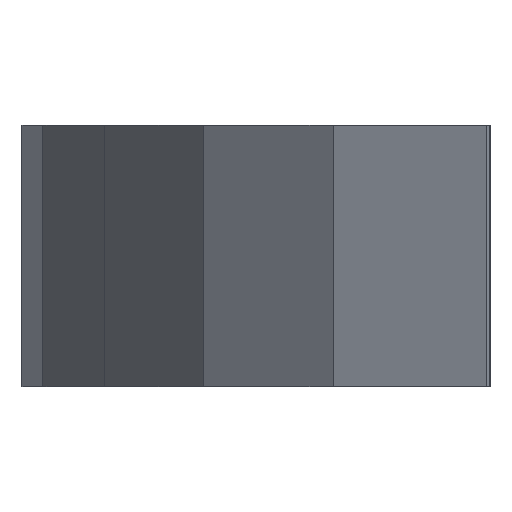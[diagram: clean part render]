
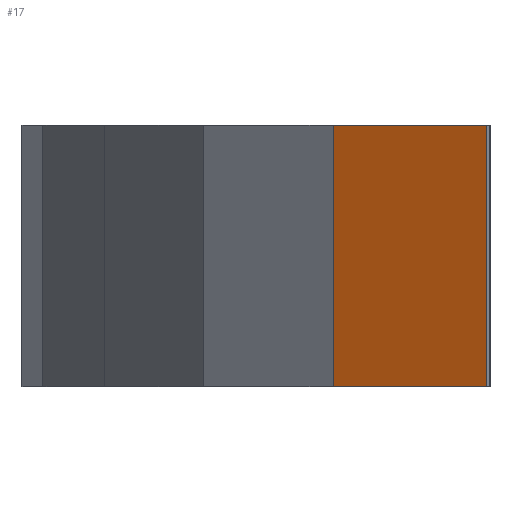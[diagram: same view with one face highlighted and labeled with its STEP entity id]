
A CAD part, left-side view. The second image highlights one B-rep face of the part: STEP entity #17.
In plain terms, the highlighted planar face has unit normal (-0.863, 0.505, 0).
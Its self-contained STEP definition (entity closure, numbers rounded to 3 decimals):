
#17 = ADVANCED_FACE('',(#18),#32,.F.);
#18 = FACE_BOUND('',#19,.F.);
#19 = EDGE_LOOP('',(#20,#55,#80,#108));
#20 = ORIENTED_EDGE('',*,*,#21,.T.);
#21 = EDGE_CURVE('',#22,#24,#26,.T.);
#22 = VERTEX_POINT('',#23);
#23 = CARTESIAN_POINT('',(-183.24,58.143,79.));
#24 = VERTEX_POINT('',#25);
#25 = CARTESIAN_POINT('',(-161.662,95.063,79.));
#26 = SURFACE_CURVE('',#27,(#31,#43),.PCURVE_S1.);
#27 = LINE('',#28,#29);
#28 = CARTESIAN_POINT('',(-183.24,58.143,79.));
#29 = VECTOR('',#30,1.);
#30 = DIRECTION('',(0.505,0.863,0.));
#31 = PCURVE('',#32,#37);
#32 = PLANE('',#33);
#33 = AXIS2_PLACEMENT_3D('',#34,#35,#36);
#34 = CARTESIAN_POINT('',(-183.24,58.143,142.));
#35 = DIRECTION('',(0.863,-0.505,0.));
#36 = DIRECTION('',(0.505,0.863,0.));
#37 = DEFINITIONAL_REPRESENTATION('',(#38),#42);
#38 = LINE('',#39,#40);
#39 = CARTESIAN_POINT('',(0.,-63.));
#40 = VECTOR('',#41,1.);
#41 = DIRECTION('',(1.,0.));
#42 = ( GEOMETRIC_REPRESENTATION_CONTEXT(2) 
PARAMETRIC_REPRESENTATION_CONTEXT() REPRESENTATION_CONTEXT('2D SPACE',''
  ) );
#43 = PCURVE('',#44,#49);
#44 = PLANE('',#45);
#45 = AXIS2_PLACEMENT_3D('',#46,#47,#48);
#46 = CARTESIAN_POINT('',(-183.24,58.143,79.));
#47 = DIRECTION('',(0.,0.,1.));
#48 = DIRECTION('',(1.,0.,-0.));
#49 = DEFINITIONAL_REPRESENTATION('',(#50),#54);
#50 = LINE('',#51,#52);
#51 = CARTESIAN_POINT('',(0.,0.));
#52 = VECTOR('',#53,1.);
#53 = DIRECTION('',(0.505,0.863));
#54 = ( GEOMETRIC_REPRESENTATION_CONTEXT(2) 
PARAMETRIC_REPRESENTATION_CONTEXT() REPRESENTATION_CONTEXT('2D SPACE',''
  ) );
#55 = ORIENTED_EDGE('',*,*,#56,.T.);
#56 = EDGE_CURVE('',#24,#57,#59,.T.);
#57 = VERTEX_POINT('',#58);
#58 = CARTESIAN_POINT('',(-161.662,95.063,142.));
#59 = SURFACE_CURVE('',#60,(#63,#69),.PCURVE_S1.);
#60 = B_SPLINE_CURVE_WITH_KNOTS('',1,(#61,#62),.UNSPECIFIED.,.F.,.F.,(2,
    2),(0.,1.),.PIECEWISE_BEZIER_KNOTS.);
#61 = CARTESIAN_POINT('',(-161.662,95.063,79.));
#62 = CARTESIAN_POINT('',(-161.662,95.063,142.));
#63 = PCURVE('',#32,#64);
#64 = DEFINITIONAL_REPRESENTATION('',(#65),#68);
#65 = B_SPLINE_CURVE_WITH_KNOTS('',1,(#66,#67),.UNSPECIFIED.,.F.,.F.,(2,
    2),(0.,1.),.PIECEWISE_BEZIER_KNOTS.);
#66 = CARTESIAN_POINT('',(42.763,-63.));
#67 = CARTESIAN_POINT('',(42.763,0.));
#68 = ( GEOMETRIC_REPRESENTATION_CONTEXT(2) 
PARAMETRIC_REPRESENTATION_CONTEXT() REPRESENTATION_CONTEXT('2D SPACE',''
  ) );
#69 = PCURVE('',#70,#75);
#70 = PLANE('',#71);
#71 = AXIS2_PLACEMENT_3D('',#72,#73,#74);
#72 = CARTESIAN_POINT('',(-161.662,95.063,142.));
#73 = DIRECTION('',(0.708,-0.706,0.));
#74 = DIRECTION('',(0.706,0.708,0.));
#75 = DEFINITIONAL_REPRESENTATION('',(#76),#79);
#76 = B_SPLINE_CURVE_WITH_KNOTS('',1,(#77,#78),.UNSPECIFIED.,.F.,.F.,(2,
    2),(0.,1.),.PIECEWISE_BEZIER_KNOTS.);
#77 = CARTESIAN_POINT('',(0.,-63.));
#78 = CARTESIAN_POINT('',(0.,0.));
#79 = ( GEOMETRIC_REPRESENTATION_CONTEXT(2) 
PARAMETRIC_REPRESENTATION_CONTEXT() REPRESENTATION_CONTEXT('2D SPACE',''
  ) );
#80 = ORIENTED_EDGE('',*,*,#81,.F.);
#81 = EDGE_CURVE('',#82,#57,#84,.T.);
#82 = VERTEX_POINT('',#83);
#83 = CARTESIAN_POINT('',(-183.24,58.143,142.));
#84 = SURFACE_CURVE('',#85,(#89,#96),.PCURVE_S1.);
#85 = LINE('',#86,#87);
#86 = CARTESIAN_POINT('',(-183.24,58.143,142.));
#87 = VECTOR('',#88,1.);
#88 = DIRECTION('',(0.505,0.863,0.));
#89 = PCURVE('',#32,#90);
#90 = DEFINITIONAL_REPRESENTATION('',(#91),#95);
#91 = LINE('',#92,#93);
#92 = CARTESIAN_POINT('',(0.,0.));
#93 = VECTOR('',#94,1.);
#94 = DIRECTION('',(1.,0.));
#95 = ( GEOMETRIC_REPRESENTATION_CONTEXT(2) 
PARAMETRIC_REPRESENTATION_CONTEXT() REPRESENTATION_CONTEXT('2D SPACE',''
  ) );
#96 = PCURVE('',#97,#102);
#97 = PLANE('',#98);
#98 = AXIS2_PLACEMENT_3D('',#99,#100,#101);
#99 = CARTESIAN_POINT('',(-183.24,58.143,142.));
#100 = DIRECTION('',(0.,0.,1.));
#101 = DIRECTION('',(1.,0.,-0.));
#102 = DEFINITIONAL_REPRESENTATION('',(#103),#107);
#103 = LINE('',#104,#105);
#104 = CARTESIAN_POINT('',(0.,0.));
#105 = VECTOR('',#106,1.);
#106 = DIRECTION('',(0.505,0.863));
#107 = ( GEOMETRIC_REPRESENTATION_CONTEXT(2) 
PARAMETRIC_REPRESENTATION_CONTEXT() REPRESENTATION_CONTEXT('2D SPACE',''
  ) );
#108 = ORIENTED_EDGE('',*,*,#109,.F.);
#109 = EDGE_CURVE('',#22,#82,#110,.T.);
#110 = SURFACE_CURVE('',#111,(#114,#120),.PCURVE_S1.);
#111 = B_SPLINE_CURVE_WITH_KNOTS('',1,(#112,#113),.UNSPECIFIED.,.F.,.F.,
  (2,2),(0.,1.),.PIECEWISE_BEZIER_KNOTS.);
#112 = CARTESIAN_POINT('',(-183.24,58.143,79.));
#113 = CARTESIAN_POINT('',(-183.24,58.143,142.));
#114 = PCURVE('',#32,#115);
#115 = DEFINITIONAL_REPRESENTATION('',(#116),#119);
#116 = B_SPLINE_CURVE_WITH_KNOTS('',1,(#117,#118),.UNSPECIFIED.,.F.,.F.,
  (2,2),(0.,1.),.PIECEWISE_BEZIER_KNOTS.);
#117 = CARTESIAN_POINT('',(0.,-63.));
#118 = CARTESIAN_POINT('',(0.,0.));
#119 = ( GEOMETRIC_REPRESENTATION_CONTEXT(2) 
PARAMETRIC_REPRESENTATION_CONTEXT() REPRESENTATION_CONTEXT('2D SPACE',''
  ) );
#120 = PCURVE('',#121,#126);
#121 = PLANE('',#122);
#122 = AXIS2_PLACEMENT_3D('',#123,#124,#125);
#123 = CARTESIAN_POINT('',(-180.891,57.288,142.));
#124 = DIRECTION('',(0.342,0.94,-0.));
#125 = DIRECTION('',(-0.94,0.342,0.));
#126 = DEFINITIONAL_REPRESENTATION('',(#127),#130);
#127 = B_SPLINE_CURVE_WITH_KNOTS('',1,(#128,#129),.UNSPECIFIED.,.F.,.F.,
  (2,2),(0.,1.),.PIECEWISE_BEZIER_KNOTS.);
#128 = CARTESIAN_POINT('',(2.5,-63.));
#129 = CARTESIAN_POINT('',(2.5,0.));
#130 = ( GEOMETRIC_REPRESENTATION_CONTEXT(2) 
PARAMETRIC_REPRESENTATION_CONTEXT() REPRESENTATION_CONTEXT('2D SPACE',''
  ) );
